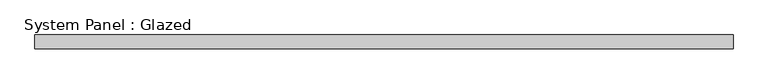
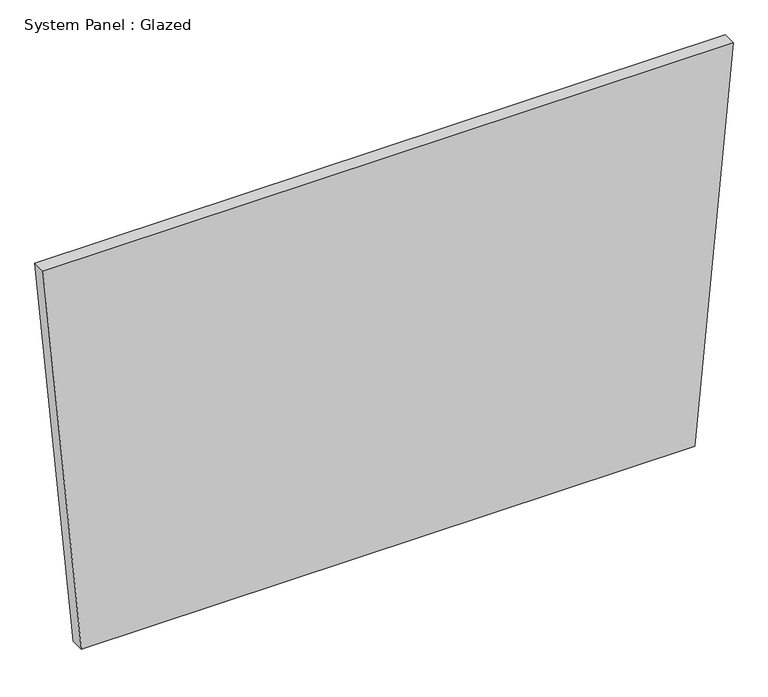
"""IFC4 building model written with IfcOpenShell, lengths in millimetres: plate geometry, System Panel : Glazed."""

from ifc_helpers import new_model, si_unit, frame, origin, place, context, project, spatial, polyline, outline, extrude, source, transform, mapped, element, save


def system_panel_glazed_c752f533(model_context):
    return source(origin(), model_context, "Body", "SweptSolid", [
        extrude(outline(polyline([(0.0, -563.5753994), (0.0, 563.5753994), (758.7366017, 634.0223243), (758.7366017, -634.0223243), (0.0, -563.5753994)])), frame((0.0, -44.45, 0.0), z_axis=(0.0, 1.0, 0.0), x_axis=(0.0, 0.0, 1.0)), (0.0, 0.0, 1.0), 25.4),
    ])


if __name__ == "__main__":
    model = new_model("IFC4")
    model_context = context("Model", 3, world=origin())
    ifc_project = project(units=[si_unit("LENGTHUNIT", "METRE", prefix="MILLI")], contexts=[model_context])
    site = spatial("IfcSite", under=ifc_project)
    building = spatial("IfcBuilding", under=site)
    placement = place(None, origin())
    system_panel_glazed_shape = system_panel_glazed_c752f533(model_context)
    element("IfcPlate", 1, ObjectType="System Panel : Glazed", at=placement, inside=building, context=model_context, shape_type="MappedRepresentation", body=[
        mapped(system_panel_glazed_shape, transform((0.0, 0.0, 0.0), x_axis=(1.0, 0.0, 0.0), y_axis=(0.0, 1.0, 0.0), z_axis=(0.0, 0.0, 1.0))),
    ])
    save(model, "model.ifc")
